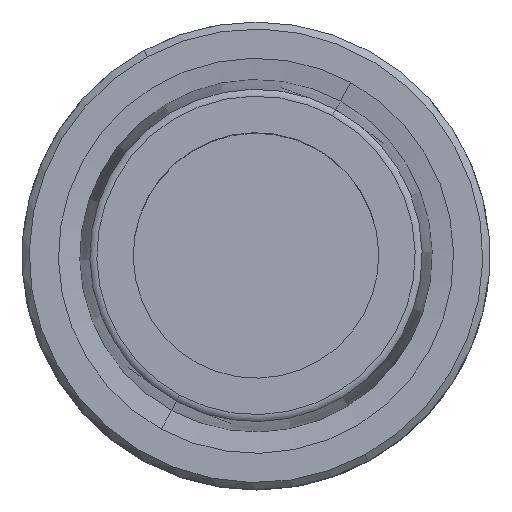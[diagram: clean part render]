
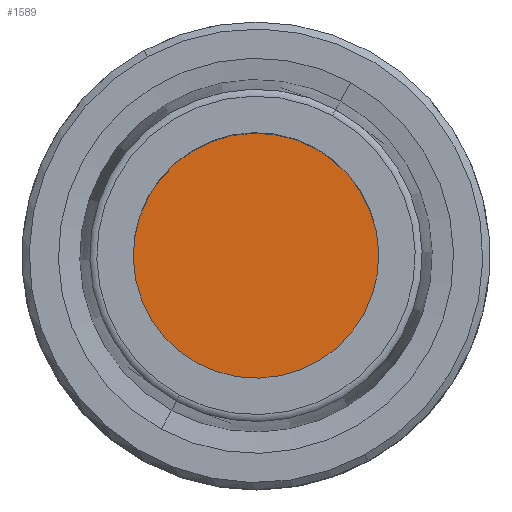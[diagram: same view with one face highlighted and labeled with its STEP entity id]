
A CAD part, top view. The second image highlights one B-rep face of the part: STEP entity #1589.
In plain terms, the highlighted planar face has unit normal (0, 0, 1).
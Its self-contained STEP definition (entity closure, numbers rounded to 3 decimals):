
#1544=AXIS2_PLACEMENT_3D('Circle Axis2P3D',#1542,#1543,$) ;
#1570=AXIS2_PLACEMENT_3D('Circle Axis2P3D',#1568,#1569,$) ;
#1583=AXIS2_PLACEMENT_3D('Plane Axis2P3D',#1580,#1581,#1582) ;
#1542=CARTESIAN_POINT('Axis2P3D Location',(0.,0.,-8.)) ;
#1546=CARTESIAN_POINT('Vertex',(-5.034,-9.215,-8.)) ;
#1548=CARTESIAN_POINT('Vertex',(5.034,9.215,-8.)) ;
#1568=CARTESIAN_POINT('Axis2P3D Location',(0.,0.,-8.)) ;
#1580=CARTESIAN_POINT('Axis2P3D Location',(0.,-9.9,-8.)) ;
#1543=DIRECTION('Axis2P3D Direction',(0.,0.,-1.)) ;
#1569=DIRECTION('Axis2P3D Direction',(0.,0.,-1.)) ;
#1581=DIRECTION('Axis2P3D Direction',(0.,0.,-1.)) ;
#1582=DIRECTION('Axis2P3D XDirection',(-1.,0.,0.)) ;
#1586=ORIENTED_EDGE('',*,*,#1550,.T.) ;
#1587=ORIENTED_EDGE('',*,*,#1572,.T.) ;
#1589=ADVANCED_FACE('NOCUT',(#1588),#1584,.F.) ;
#1545=CIRCLE('generated circle',#1544,10.5) ;
#1571=CIRCLE('generated circle',#1570,10.5) ;
#1550=EDGE_CURVE('',#1547,#1549,#1545,.F.) ;
#1572=EDGE_CURVE('',#1549,#1547,#1571,.F.) ;
#1585=EDGE_LOOP('',(#1586,#1587)) ;
#1588=FACE_OUTER_BOUND('',#1585,.T.) ;
#1584=PLANE('',#1583) ;
#1547=VERTEX_POINT('',#1546) ;
#1549=VERTEX_POINT('',#1548) ;
